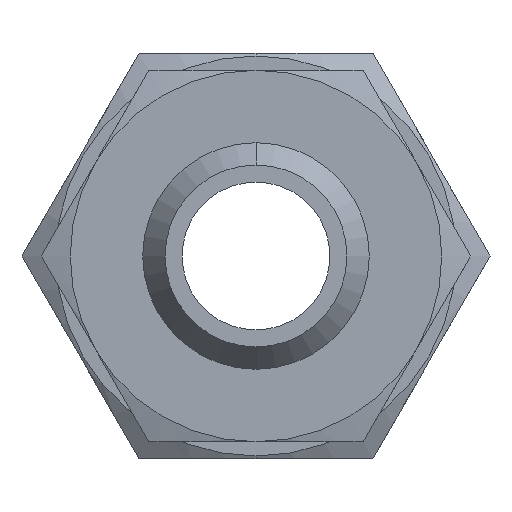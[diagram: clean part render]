
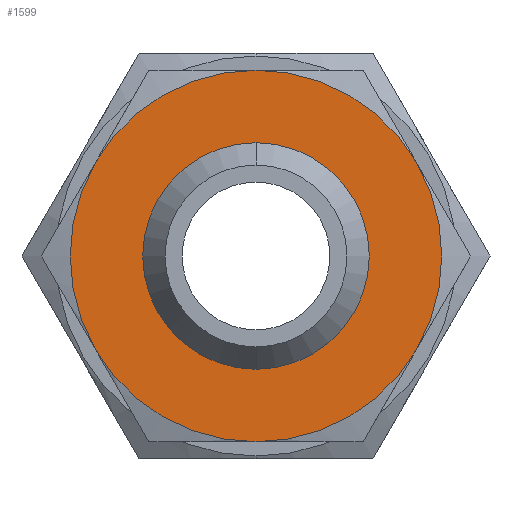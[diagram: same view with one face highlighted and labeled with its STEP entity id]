
A CAD part, left-side view. The second image highlights one B-rep face of the part: STEP entity #1599.
In plain terms, the highlighted planar face has unit normal (-1, 0, 0).
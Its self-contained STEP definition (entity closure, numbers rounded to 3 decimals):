
#23 = VERTEX_POINT ( 'NONE', #176 ) ;
#176 = CARTESIAN_POINT ( 'NONE',  ( 0., -15.125, -8.732 ) ) ;
#660 = CARTESIAN_POINT ( 'NONE',  ( 0., 0., -17.465 ) ) ;
#767 = CARTESIAN_POINT ( 'NONE',  ( 0., 15.125, 8.733 ) ) ;
#797 = CARTESIAN_POINT ( 'NONE',  ( 0., 0., 17.465 ) ) ;
#813 = CARTESIAN_POINT ( 'NONE',  ( 0., -15.125, 8.732 ) ) ;
#831 = DIRECTION ( 'NONE',  ( 1., 0., 0. ) ) ;
#832 = CARTESIAN_POINT ( 'NONE',  ( 0., 0., 0. ) ) ;
#833 = AXIS2_PLACEMENT_3D ( 'NONE', #832, #831, #881 ) ;
#834 = CIRCLE ( 'NONE', #833, 17.465 ) ;
#841 = CARTESIAN_POINT ( 'NONE',  ( 0., 0., -10.65 ) ) ;
#842 = DIRECTION ( 'NONE',  ( 0., 0., -1. ) ) ;
#843 = DIRECTION ( 'NONE',  ( -1., 0., 0. ) ) ;
#844 = CARTESIAN_POINT ( 'NONE',  ( 0., 0., 0. ) ) ;
#845 = AXIS2_PLACEMENT_3D ( 'NONE', #844, #843, #842 ) ;
#852 = CIRCLE ( 'NONE', #845, 10.65 ) ;
#869 = CARTESIAN_POINT ( 'NONE',  ( 0., 15.125, -8.732 ) ) ;
#871 = DIRECTION ( 'NONE',  ( 0., 0., -1. ) ) ;
#872 = DIRECTION ( 'NONE',  ( 1., 0., 0. ) ) ;
#873 = CARTESIAN_POINT ( 'NONE',  ( 0., 0., 0. ) ) ;
#874 = AXIS2_PLACEMENT_3D ( 'NONE', #873, #872, #871 ) ;
#875 = CIRCLE ( 'NONE', #874, 17.465 ) ;
#876 = DIRECTION ( 'NONE',  ( 0., 0., -1. ) ) ;
#877 = DIRECTION ( 'NONE',  ( 1., 0., 0. ) ) ;
#878 = CARTESIAN_POINT ( 'NONE',  ( 0., 0., 0. ) ) ;
#879 = AXIS2_PLACEMENT_3D ( 'NONE', #878, #877, #876 ) ;
#880 = CIRCLE ( 'NONE', #879, 17.465 ) ;
#881 = DIRECTION ( 'NONE',  ( 0., 0., -1. ) ) ;
#883 = DIRECTION ( 'NONE',  ( 0., 0., -1. ) ) ;
#884 = DIRECTION ( 'NONE',  ( 1., 0., 0. ) ) ;
#885 = AXIS2_PLACEMENT_3D ( 'NONE', #892, #884, #883 ) ;
#892 = CARTESIAN_POINT ( 'NONE',  ( 0., 20.167, 0. ) ) ;
#893 = PLANE ( 'NONE',  #885 ) ;
#894 = FACE_OUTER_BOUND ( 'NONE', #1662, .T. ) ;
#896 = FACE_BOUND ( 'NONE', #1600, .T. ) ;
#983 = CARTESIAN_POINT ( 'NONE',  ( 0., 0., 10.65 ) ) ;
#1007 = DIRECTION ( 'NONE',  ( 0., 0., -1. ) ) ;
#1008 = DIRECTION ( 'NONE',  ( 1., 0., 0. ) ) ;
#1009 = CARTESIAN_POINT ( 'NONE',  ( 0., 0., 0. ) ) ;
#1010 = AXIS2_PLACEMENT_3D ( 'NONE', #1009, #1008, #1007 ) ;
#1011 = CIRCLE ( 'NONE', #1010, 17.465 ) ;
#1012 = DIRECTION ( 'NONE',  ( 0., 0., 1. ) ) ;
#1013 = DIRECTION ( 'NONE',  ( -1., 0., 0. ) ) ;
#1014 = CARTESIAN_POINT ( 'NONE',  ( 0., 0., 0. ) ) ;
#1015 = AXIS2_PLACEMENT_3D ( 'NONE', #1014, #1013, #1012 ) ;
#1016 = CIRCLE ( 'NONE', #1015, 17.465 ) ;
#1035 = DIRECTION ( 'NONE',  ( 0., 0., -1. ) ) ;
#1036 = DIRECTION ( 'NONE',  ( 1., 0., 0. ) ) ;
#1037 = CARTESIAN_POINT ( 'NONE',  ( 0., 0., 0. ) ) ;
#1038 = AXIS2_PLACEMENT_3D ( 'NONE', #1037, #1036, #1035 ) ;
#1039 = CIRCLE ( 'NONE', #1038, 17.465 ) ;
#1040 = DIRECTION ( 'NONE',  ( 0., 0., -1. ) ) ;
#1041 = DIRECTION ( 'NONE',  ( -1., 0., 0. ) ) ;
#1042 = CARTESIAN_POINT ( 'NONE',  ( 0., 0., 0. ) ) ;
#1043 = AXIS2_PLACEMENT_3D ( 'NONE', #1042, #1041, #1040 ) ;
#1044 = CIRCLE ( 'NONE', #1043, 10.65 ) ;
#1493 = VERTEX_POINT ( 'NONE', #660 ) ;
#1543 = VERTEX_POINT ( 'NONE', #767 ) ;
#1554 = VERTEX_POINT ( 'NONE', #797 ) ;
#1567 = VERTEX_POINT ( 'NONE', #813 ) ;
#1576 = EDGE_CURVE ( 'NONE', #1632, #1577, #852, .T. ) ;
#1577 = VERTEX_POINT ( 'NONE', #841 ) ;
#1581 = ORIENTED_EDGE ( 'NONE', *, *, #1582, .F. ) ;
#1582 = EDGE_CURVE ( 'NONE', #23, #1493, #834, .T. ) ;
#1583 = ORIENTED_EDGE ( 'NONE', *, *, #1584, .F. ) ;
#1584 = EDGE_CURVE ( 'NONE', #1567, #23, #880, .T. ) ;
#1585 = ORIENTED_EDGE ( 'NONE', *, *, #1586, .F. ) ;
#1586 = EDGE_CURVE ( 'NONE', #1554, #1567, #875, .T. ) ;
#1587 = ORIENTED_EDGE ( 'NONE', *, *, #1646, .T. ) ;
#1589 = VERTEX_POINT ( 'NONE', #869 ) ;
#1599 = ADVANCED_FACE ( 'NONE', ( #896, #894 ), #893, .F. ) ;
#1600 = EDGE_LOOP ( 'NONE', ( #1659, #1661 ) ) ;
#1632 = VERTEX_POINT ( 'NONE', #983 ) ;
#1646 = EDGE_CURVE ( 'NONE', #1554, #1543, #1016, .T. ) ;
#1647 = ORIENTED_EDGE ( 'NONE', *, *, #1648, .F. ) ;
#1648 = EDGE_CURVE ( 'NONE', #1589, #1543, #1011, .T. ) ;
#1659 = ORIENTED_EDGE ( 'NONE', *, *, #1660, .F. ) ;
#1660 = EDGE_CURVE ( 'NONE', #1577, #1632, #1044, .T. ) ;
#1661 = ORIENTED_EDGE ( 'NONE', *, *, #1576, .F. ) ;
#1662 = EDGE_LOOP ( 'NONE', ( #1663, #1581, #1583, #1585, #1587, #1647 ) ) ;
#1663 = ORIENTED_EDGE ( 'NONE', *, *, #1664, .F. ) ;
#1664 = EDGE_CURVE ( 'NONE', #1493, #1589, #1039, .T. ) ;
